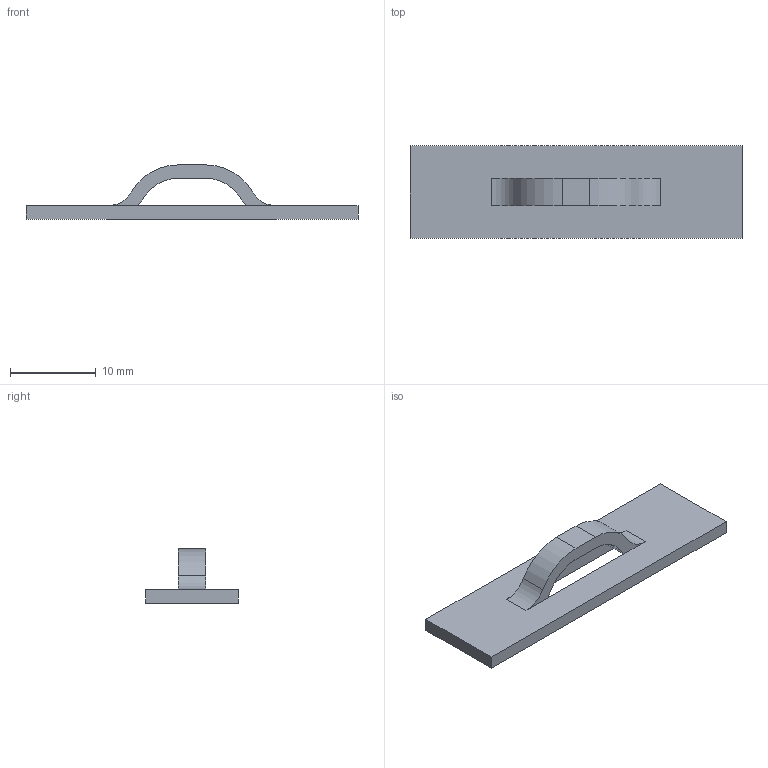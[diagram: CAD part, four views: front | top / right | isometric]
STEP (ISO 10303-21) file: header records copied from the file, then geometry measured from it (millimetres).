
FILE_DESCRIPTION((''),'2;1');
FILE_NAME('C:/Users/ericfrey/Desktop/LANCE.STP', '2021-07-13T19:12:10',(''), (''), 'Kubotek Kosmos Version 3.0.7268.7268', 'KeyCreator Pro', '');
FILE_SCHEMA(('CONFIG_CONTROL_DESIGN'));
Length unit declared in the file: inch
Bounding box: 38.72 x 10.79 x 6.34 mm (x, y, z)
Volume: 675.5 mm3; surface area: 1117.8 mm2
Topology: 1 solids, 1 shells, 20 faces, 56 edges, 36 vertices
Faces by surface type: plane 12, cylinder 8
Entity records: 700 total; most frequent: DIRECTION 118, CARTESIAN_POINT 113, ORIENTED_EDGE 112, EDGE_CURVE 56, AXIS2_PLACEMENT_3D 41, VERTEX_POINT 36, VECTOR 36, LINE 36
